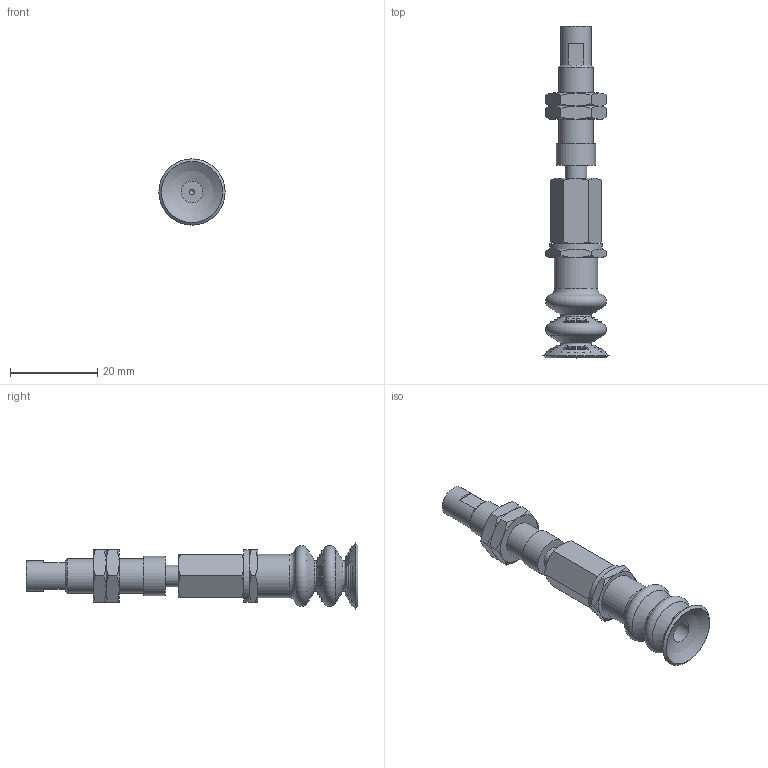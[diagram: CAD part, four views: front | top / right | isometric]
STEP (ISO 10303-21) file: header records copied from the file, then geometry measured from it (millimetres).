
FILE_DESCRIPTION(('STEP AP203'),'1');
FILE_NAME('.stp','2025-08-27T02:12:39',(' '),(' '),'Spatial InterOp 3D',' ',' ');
FILE_SCHEMA(('CONFIG_CONTROL_DESIGN'));
Length unit declared in the file: millimetre
Products named in the file (7): BNABPCTS-15-3-※; ADAPTER; NAPCTS-10-3-MBODY; Adapter_napc-15-T; Nut napc_s-15-3; NAPCTS-15-3-FBODY; BPCG-15-※
Assembly tree (7 placements, depth 2):
  BNABPCTS-15-3-※
    ADAPTER
    NAPCTS-10-3-MBODY
    Adapter_napc-15-T
    Nut napc_s-15-3  x2
    NAPCTS-15-3-FBODY
    BPCG-15-※
Bounding box: 15.2 x 76.2 x 15.2 mm (x, y, z)
Volume: 5443.9 mm3; surface area: 5526.9 mm2
Topology: 7 solids, 7 shells, 220 faces, 658 edges, 423 vertices
Faces by surface type: cone 63, sphere 58, plane 48, torus 34, cylinder 17
Full cylindrical faces by diameter (mm): 1.25 x1, 4.134 x2, 5 x7, 7 x1, 7.188 x2, 8 x1, 9 x1, 10 x1, 12 x1
Entity records: 6307 total; most frequent: CARTESIAN_POINT 1857, DIRECTION 902, ORIENTED_EDGE 758, AXIS2_PLACEMENT_3D 438, EDGE_CURVE 379, EDGE_LOOP 276, VERTEX_POINT 266, CIRCLE 233
